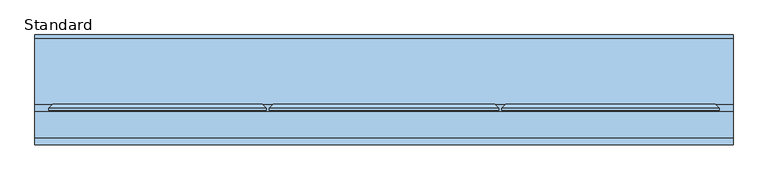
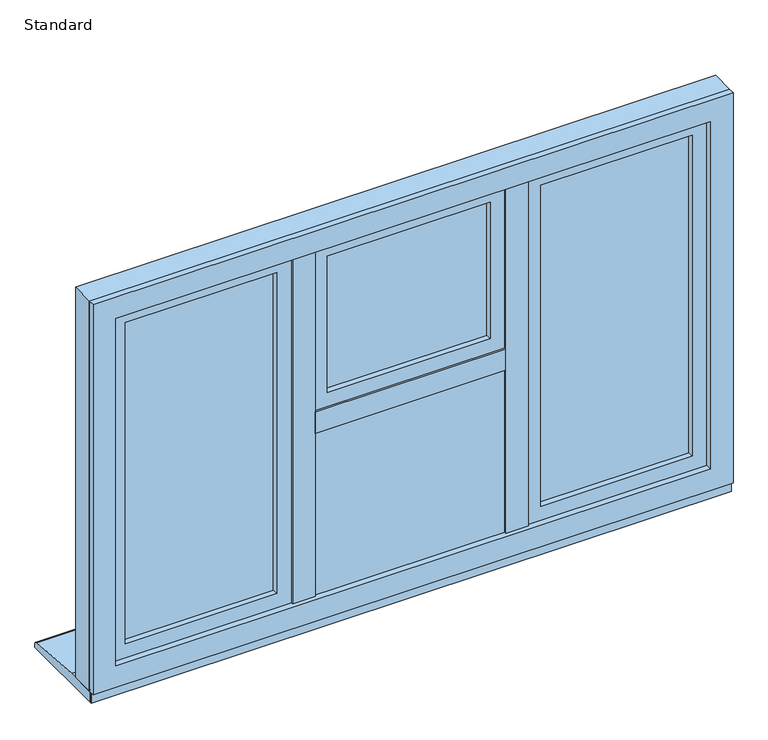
"""IFC4 building model written with IfcOpenShell, lengths in millimetres: window geometry, SMARTS_Alitherm600 : Standard."""

from ifc_helpers import new_model, si_unit, point, frame, frame_2d, origin, place, context, project, spatial, polyline, circle_curve, trimmed, segment, composite_curve, outline, extrude, faceted_brep, source, transform, mapped, element, save


def standard_d68943e1(model_context):
    return source(origin(), model_context, "Body", "SolidModel", [
        extrude(outline(polyline([(-256.0666667, 102.8298432), (-237.2666667, 102.8298432), (-237.2666667, 47.2458572), (-256.0666667, 47.2458572), (-256.0666667, 102.8298432)])), frame((0.0, 0.0, 670.8979117), z_axis=(0.0, 0.0, 1.0), x_axis=(1.0, 0.0, 0.0)), (0.0, 0.0, 1.0), 883.2041766),
        extrude(outline(polyline([(-272.568755, 47.2458572), (-220.7645784, 47.2458572), (-220.7645784, 43.2798432), (-272.568755, 43.2798432), (-272.568755, 47.2458572)])), frame((0.0, 0.0, 687.4), z_axis=(0.0, 0.0, 1.0), x_axis=(1.0, 0.0, 0.0)), (0.0, 0.0, 1.0), 850.2),
        extrude(outline(polyline([(237.2666667, 102.8298432), (256.0666667, 102.8298432), (256.0666667, 47.2458572), (237.2666667, 47.2458572), (237.2666667, 102.8298432)])), frame((0.0, 0.0, 670.8979117), z_axis=(0.0, 0.0, 1.0), x_axis=(1.0, 0.0, 0.0)), (0.0, 0.0, 1.0), 883.2041766),
        extrude(outline(polyline([(220.7645784, 47.2458572), (272.568755, 47.2458572), (272.568755, 43.2798432), (220.7645784, 43.2798432), (220.7645784, 47.2458572)])), frame((0.0, 0.0, 687.4), z_axis=(0.0, 0.0, 1.0), x_axis=(1.0, 0.0, 0.0)), (0.0, 0.0, 1.0), 850.2),
        extrude(outline(polyline([(237.168755, 102.8298432), (237.168755, 47.2458572), (-237.168755, 47.2458572), (-237.168755, 102.8298432), (237.168755, 102.8298432)])), frame((0.0, 0.0, 1103.1), z_axis=(0.0, 0.0, 1.0), x_axis=(1.0, 0.0, 0.0)), (0.0, 0.0, 1.0), 18.8),
        extrude(outline(polyline([(220.6666667, 47.2458572), (220.6666667, 43.2798432), (-220.6666667, 43.2798432), (-220.6666667, 47.2458572), (220.6666667, 47.2458572)])), frame((0.0, 0.0, 1086.5979117), z_axis=(0.0, 0.0, 1.0), x_axis=(1.0, 0.0, 0.0)), (0.0, 0.0, 1.0), 51.8041766),
        extrude(outline(polyline([(1516.6, -666.6), (708.4, -666.6), (708.4, -293.6666667), (1516.6, -293.6666667), (1516.6, -666.6)]), holes=[polyline([(1506.6, -303.6666667), (718.4, -303.6666667), (718.4, -656.6), (1506.6, -656.6), (1506.6, -303.6666667)])]), frame((0.0, 72.3211351, 0.0), z_axis=(0.0, 1.0, 0.0), x_axis=(0.0, 0.0, 1.0)), (0.0, 0.0, 1.0), 16.0),
        extrude(outline(polyline([(-666.6, 92.3211351), (-293.6666667, 92.3211351), (-293.6666667, 88.3211351), (-666.6, 88.3211351), (-666.6, 92.3211351)])), frame((0.0, 0.0, 708.4), z_axis=(0.0, 0.0, 1.0), x_axis=(1.0, 0.0, 0.0)), (0.0, 0.0, 1.0), 808.2),
        extrude(outline(polyline([(-666.6, 72.3211351), (-293.6666667, 72.3211351), (-293.6666667, 68.3211351), (-666.6, 68.3211351), (-666.6, 72.3211351)])), frame((0.0, 0.0, 708.4), z_axis=(0.0, 0.0, 1.0), x_axis=(1.0, 0.0, 0.0)), (0.0, 0.0, 1.0), 808.2),
        faceted_brep([(-293.344552, 118.8818325, 1516.9221147), (-305.5266427, 97.7818325, 1504.740024), (-654.740024, 97.7818325, 1504.740024), (-666.9221147, 118.8818325, 1516.9221147), (-288.6606173, 97.7818325, 1521.6060494), (-288.6606173, 118.8818325, 1521.6060494), (-671.6060494, 118.8818325, 1521.6060494), (-671.6060494, 97.7818325, 1521.6060494), (-654.740024, 97.7818325, 720.259976), (-666.9221147, 118.8818325, 708.0778853), (-671.6060494, 118.8818325, 703.3939506), (-671.6060494, 97.7818325, 703.3939506), (-305.5266427, 97.7818325, 720.259976), (-293.344552, 118.8818325, 708.0778853), (-288.6606173, 118.8818325, 703.3939506), (-288.6606173, 97.7818325, 703.3939506)], [[[0, 1, 2, 3]], [[4, 5, 6, 7]], [[3, 2, 8, 9]], [[7, 6, 10, 11]], [[9, 8, 12, 13]], [[11, 10, 14, 15]], [[13, 12, 1, 0]], [[5, 14, 10, 6], [3, 9, 13, 0]], [[15, 14, 5, 4]], [[7, 11, 15, 4], [1, 12, 8, 2]]]),
        extrude(outline(polyline([(681.552908, -693.447092), (681.552908, -266.8195747), (1543.447092, -266.8195747), (1543.447092, -693.447092), (681.552908, -693.447092)]), holes=[polyline([(1505.1, -655.1), (1505.1, -305.1666667), (719.9, -305.1666667), (719.9, -655.1), (1505.1, -655.1)])]), frame((0.0, 50.2798432, 0.0), z_axis=(0.0, 1.0, 0.0), x_axis=(0.0, 0.0, 1.0)), (0.0, 0.0, 1.0), 13.0853156),
        faceted_brep([(-671.6060494, 118.8818325, 1521.6060494), (-671.6060494, 63.3651588, 1521.6060494), (-671.6060494, 63.3651588, 703.3939506), (-671.6060494, 118.8818325, 703.3939506), (-288.6606173, 63.3651588, 703.3939506), (-288.6606173, 118.8818325, 703.3939506), (-288.6606173, 63.3651588, 1521.6060494), (-288.6606173, 118.8818325, 1521.6060494), (-710.3358988, 106.2818325, 1560.3358988), (-710.3358988, 110.3519831, 1560.3358988), (-710.3358988, 110.3519831, 664.6641012), (-710.3358988, 106.2818325, 664.6641012), (-249.9307679, 110.3519831, 664.6641012), (-249.9307679, 106.2818325, 664.6641012), (-249.9307679, 110.3519831, 1560.3358988), (-249.9307679, 106.2818325, 1560.3358988), (-693.7467657, 106.2818325, 1543.7467657), (-266.5199009, 106.2818325, 1543.7467657), (-266.5199009, 106.2818325, 681.2532343), (-693.7467657, 106.2818325, 681.2532343), (-701.8060494, 118.8818325, 1551.8060494), (-258.4606173, 118.8818325, 1551.8060494), (-258.4606173, 118.8818325, 673.1939506), (-701.8060494, 118.8818325, 673.1939506), (-693.7467657, 63.3651588, 1543.7467657), (-693.7467657, 63.3651588, 681.2532343), (-266.5199009, 63.3651588, 681.2532343), (-266.5199009, 63.3651588, 1543.7467657)], [[[0, 1, 2, 3]], [[3, 2, 4, 5]], [[5, 4, 6, 7]], [[7, 6, 1, 0]], [[8, 9, 10, 11]], [[11, 10, 12, 13]], [[13, 12, 14, 15]], [[11, 13, 15, 8], [16, 17, 18, 19]], [[15, 14, 9, 8]], [[20, 21, 22, 23], [3, 5, 7, 0]], [[24, 16, 19, 25]], [[25, 19, 18, 26]], [[26, 18, 17, 27]], [[25, 26, 27, 24], [1, 6, 4, 2]], [[27, 17, 16, 24]], [[9, 20, 23, 10]], [[10, 23, 22, 12]], [[12, 22, 21, 14]], [[14, 21, 20, 9]]]),
        extrude(outline(polyline([(-235.6666667, 77.7798432), (235.6666667, 77.7798432), (235.6666667, 73.7798432), (-235.6666667, 73.7798432), (-235.6666667, 77.7798432)])), frame((0.0, 0.0, 672.4), z_axis=(0.0, 0.0, 1.0), x_axis=(1.0, 0.0, 0.0)), (0.0, 0.0, 1.0), 429.1),
        extrude(outline(polyline([(-235.6666667, 57.7798432), (235.6666667, 57.7798432), (235.6666667, 53.7798432), (-235.6666667, 53.7798432), (-235.6666667, 57.7798432)])), frame((0.0, 0.0, 672.4), z_axis=(0.0, 0.0, 1.0), x_axis=(1.0, 0.0, 0.0)), (0.0, 0.0, 1.0), 429.1),
        extrude(outline(polyline([(1101.5, -235.6666667), (672.4, -235.6666667), (672.4, 235.6666667), (1101.5, 235.6666667), (1101.5, -235.6666667)]), holes=[polyline([(1091.5, 225.6666667), (682.4, 225.6666667), (682.4, -225.6666667), (1091.5, -225.6666667), (1091.5, 225.6666667)])]), frame((0.0, 57.7798432, 0.0), z_axis=(0.0, 1.0, 0.0), x_axis=(0.0, 0.0, 1.0)), (0.0, 0.0, 1.0), 16.0),
        faceted_brep([(-232.4827319, 102.7798432, 1098.3160653), (-220.3006413, 81.6798432, 1086.1339746), (-220.3006413, 81.6798432, 687.7660254), (-232.4827319, 102.7798432, 675.5839347), (220.3006413, 81.6798432, 687.7660254), (232.4827319, 102.7798432, 675.5839347), (220.3006413, 81.6798432, 1086.1339746), (232.4827319, 102.7798432, 1098.3160653), (237.1666667, 81.6798432, 1103.0), (237.1666667, 102.7798432, 1103.0), (-237.1666667, 102.7798432, 1103.0), (-237.1666667, 81.6798432, 1103.0), (-237.1666667, 102.7798432, 670.9), (-237.1666667, 81.6798432, 670.9), (237.1666667, 102.7798432, 670.9), (237.1666667, 81.6798432, 670.9)], [[[0, 1, 2, 3]], [[3, 2, 4, 5]], [[5, 4, 6, 7]], [[7, 6, 1, 0]], [[8, 9, 10, 11]], [[11, 10, 12, 13]], [[13, 12, 14, 15]], [[9, 14, 12, 10], [0, 3, 5, 7]], [[15, 14, 9, 8]], [[11, 13, 15, 8], [6, 4, 2, 1]]]),
        extrude(outline(polyline([(1516.6, -199.6666667), (1159.5, -199.6666667), (1159.5, 199.6666667), (1516.6, 199.6666667), (1516.6, -199.6666667)]), holes=[polyline([(1506.6, 189.6666667), (1169.5, 189.6666667), (1169.5, -189.6666667), (1506.6, -189.6666667), (1506.6, 189.6666667)])]), frame((0.0, 72.3211351, 0.0), z_axis=(0.0, 1.0, 0.0), x_axis=(0.0, 0.0, 1.0)), (0.0, 0.0, 1.0), 16.0),
        extrude(outline(polyline([(-199.6666667, 92.3211351), (199.6666667, 92.3211351), (199.6666667, 88.3211351), (-199.6666667, 88.3211351), (-199.6666667, 92.3211351)])), frame((0.0, 0.0, 1159.5), z_axis=(0.0, 0.0, 1.0), x_axis=(1.0, 0.0, 0.0)), (0.0, 0.0, 1.0), 357.1),
        extrude(outline(polyline([(-199.6666667, 72.3211351), (199.6666667, 72.3211351), (199.6666667, 68.3211351), (-199.6666667, 68.3211351), (-199.6666667, 72.3211351)])), frame((0.0, 0.0, 1159.5), z_axis=(0.0, 0.0, 1.0), x_axis=(1.0, 0.0, 0.0)), (0.0, 0.0, 1.0), 357.1),
        faceted_brep([(199.9887813, 118.8818325, 1516.9221147), (187.8066907, 97.7818325, 1504.740024), (-187.8066907, 97.7818325, 1504.740024), (-199.9887813, 118.8818325, 1516.9221147), (204.6727161, 97.7818325, 1521.6060494), (204.6727161, 118.8818325, 1521.6060494), (-204.6727161, 118.8818325, 1521.6060494), (-204.6727161, 97.7818325, 1521.6060494), (-187.8066907, 97.7818325, 1171.359976), (-199.9887813, 118.8818325, 1159.1778853), (-204.6727161, 118.8818325, 1154.4939506), (-204.6727161, 97.7818325, 1154.4939506), (187.8066907, 97.7818325, 1171.359976), (199.9887813, 118.8818325, 1159.1778853), (204.6727161, 118.8818325, 1154.4939506), (204.6727161, 97.7818325, 1154.4939506)], [[[0, 1, 2, 3]], [[4, 5, 6, 7]], [[3, 2, 8, 9]], [[7, 6, 10, 11]], [[9, 8, 12, 13]], [[11, 10, 14, 15]], [[13, 12, 1, 0]], [[5, 14, 10, 6], [3, 9, 13, 0]], [[15, 14, 5, 4]], [[7, 11, 15, 4], [1, 12, 8, 2]]]),
        extrude(outline(polyline([(1132.652908, -226.5137586), (1132.652908, 226.5137586), (1543.447092, 226.5137586), (1543.447092, -226.5137586), (1132.652908, -226.5137586)]), holes=[polyline([(1505.1, -188.1666667), (1505.1, 188.1666667), (1171.0, 188.1666667), (1171.0, -188.1666667), (1505.1, -188.1666667)])]), frame((0.0, 50.2798432, 0.0), z_axis=(0.0, 1.0, 0.0), x_axis=(0.0, 0.0, 1.0)), (0.0, 0.0, 1.0), 13.0853156),
        faceted_brep([(-204.6727161, 118.8818325, 1521.6060494), (-204.6727161, 63.3651588, 1521.6060494), (-204.6727161, 63.3651588, 1154.4939506), (-204.6727161, 118.8818325, 1154.4939506), (204.6727161, 63.3651588, 1154.4939506), (204.6727161, 118.8818325, 1154.4939506), (204.6727161, 63.3651588, 1521.6060494), (204.6727161, 118.8818325, 1521.6060494), (-243.4025655, 106.2818325, 1560.3358988), (-243.4025655, 110.3519831, 1560.3358988), (-243.4025655, 110.3519831, 1115.7641012), (-243.4025655, 106.2818325, 1115.7641012), (243.4025655, 110.3519831, 1115.7641012), (243.4025655, 106.2818325, 1115.7641012), (243.4025655, 110.3519831, 1560.3358988), (243.4025655, 106.2818325, 1560.3358988), (-226.8134324, 106.2818325, 1543.7467657), (226.8134324, 106.2818325, 1543.7467657), (226.8134324, 106.2818325, 1132.3532343), (-226.8134324, 106.2818325, 1132.3532343), (-234.8727161, 118.8818325, 1551.8060494), (234.8727161, 118.8818325, 1551.8060494), (234.8727161, 118.8818325, 1124.2939506), (-234.8727161, 118.8818325, 1124.2939506), (-226.8134324, 63.3651588, 1543.7467657), (-226.8134324, 63.3651588, 1132.3532343), (226.8134324, 63.3651588, 1132.3532343), (226.8134324, 63.3651588, 1543.7467657)], [[[0, 1, 2, 3]], [[3, 2, 4, 5]], [[5, 4, 6, 7]], [[7, 6, 1, 0]], [[8, 9, 10, 11]], [[11, 10, 12, 13]], [[13, 12, 14, 15]], [[11, 13, 15, 8], [16, 17, 18, 19]], [[15, 14, 9, 8]], [[20, 21, 22, 23], [3, 5, 7, 0]], [[24, 16, 19, 25]], [[25, 19, 18, 26]], [[26, 18, 17, 27]], [[25, 26, 27, 24], [1, 6, 4, 2]], [[27, 17, 16, 24]], [[9, 20, 23, 10]], [[10, 23, 22, 12]], [[12, 22, 21, 14]], [[14, 21, 20, 9]]]),
        extrude(outline(polyline([(1590.0, 740.0), (1590.0, -740.0), (635.0, -740.0), (635.0, 740.0), (1590.0, 740.0)]), holes=[polyline([(670.85, 704.15), (670.85, -704.15), (1554.15, -704.15), (1554.15, 704.15), (670.85, 704.15)])]), frame((0.0, 47.2798427, 0.0), z_axis=(0.0, 1.0, 0.0), x_axis=(0.0, 0.0, 1.0)), (0.0, 0.0, 1.0), 55.5500006),
        extrude(outline(polyline([(1590.0, 740.0), (1590.0, -740.0), (635.0, -740.0), (635.0, 740.0), (1590.0, 740.0)]), holes=[polyline([(687.35, 687.65), (687.35, -687.65), (1537.65, -687.65), (1537.65, 687.65), (687.35, 687.65)])]), frame((0.0, 32.8298432, 0.0), z_axis=(0.0, 1.0, 0.0), x_axis=(0.0, 0.0, 1.0)), (0.0, 0.0, 1.0), 14.4499994),
        extrude(outline(polyline([(1516.6, 293.6666667), (708.4, 293.6666667), (708.4, 666.6), (1516.6, 666.6), (1516.6, 293.6666667)]), holes=[polyline([(1506.6, 656.6), (718.4, 656.6), (718.4, 303.6666667), (1506.6, 303.6666667), (1506.6, 656.6)])]), frame((0.0, 72.3211351, 0.0), z_axis=(0.0, 1.0, 0.0), x_axis=(0.0, 0.0, 1.0)), (0.0, 0.0, 1.0), 16.0),
        extrude(outline(polyline([(293.6666667, 92.3211351), (666.6, 92.3211351), (666.6, 88.3211351), (293.6666667, 88.3211351), (293.6666667, 92.3211351)])), frame((0.0, 0.0, 708.4), z_axis=(0.0, 0.0, 1.0), x_axis=(1.0, 0.0, 0.0)), (0.0, 0.0, 1.0), 808.2),
        extrude(outline(polyline([(293.6666667, 72.3211351), (666.6, 72.3211351), (666.6, 68.3211351), (293.6666667, 68.3211351), (293.6666667, 72.3211351)])), frame((0.0, 0.0, 708.4), z_axis=(0.0, 0.0, 1.0), x_axis=(1.0, 0.0, 0.0)), (0.0, 0.0, 1.0), 808.2),
        faceted_brep([(666.9221147, 118.8818325, 1516.9221147), (654.740024, 97.7818325, 1504.740024), (305.5266427, 97.7818325, 1504.740024), (293.344552, 118.8818325, 1516.9221147), (671.6060494, 97.7818325, 1521.6060494), (671.6060494, 118.8818325, 1521.6060494), (288.6606173, 118.8818325, 1521.6060494), (288.6606173, 97.7818325, 1521.6060494), (305.5266427, 97.7818325, 720.259976), (293.344552, 118.8818325, 708.0778853), (288.6606173, 118.8818325, 703.3939506), (288.6606173, 97.7818325, 703.3939506), (654.740024, 97.7818325, 720.259976), (666.9221147, 118.8818325, 708.0778853), (671.6060494, 118.8818325, 703.3939506), (671.6060494, 97.7818325, 703.3939506)], [[[0, 1, 2, 3]], [[4, 5, 6, 7]], [[3, 2, 8, 9]], [[7, 6, 10, 11]], [[9, 8, 12, 13]], [[11, 10, 14, 15]], [[13, 12, 1, 0]], [[5, 14, 10, 6], [3, 9, 13, 0]], [[15, 14, 5, 4]], [[7, 11, 15, 4], [1, 12, 8, 2]]]),
        extrude(outline(polyline([(681.552908, 266.8195747), (681.552908, 693.447092), (1543.447092, 693.447092), (1543.447092, 266.8195747), (681.552908, 266.8195747)]), holes=[polyline([(1505.1, 305.1666667), (1505.1, 655.1), (719.9, 655.1), (719.9, 305.1666667), (1505.1, 305.1666667)])]), frame((0.0, 50.2798432, 0.0), z_axis=(0.0, 1.0, 0.0), x_axis=(0.0, 0.0, 1.0)), (0.0, 0.0, 1.0), 13.0853156),
        faceted_brep([(288.6606173, 118.8818325, 1521.6060494), (288.6606173, 63.3651588, 1521.6060494), (288.6606173, 63.3651588, 703.3939506), (288.6606173, 118.8818325, 703.3939506), (671.6060494, 63.3651588, 703.3939506), (671.6060494, 118.8818325, 703.3939506), (671.6060494, 63.3651588, 1521.6060494), (671.6060494, 118.8818325, 1521.6060494), (249.9307679, 106.2818325, 1560.3358988), (249.9307679, 110.3519831, 1560.3358988), (249.9307679, 110.3519831, 664.6641012), (249.9307679, 106.2818325, 664.6641012), (710.3358988, 110.3519831, 664.6641012), (710.3358988, 106.2818325, 664.6641012), (710.3358988, 110.3519831, 1560.3358988), (710.3358988, 106.2818325, 1560.3358988), (266.5199009, 106.2818325, 1543.7467657), (693.7467657, 106.2818325, 1543.7467657), (693.7467657, 106.2818325, 681.2532343), (266.5199009, 106.2818325, 681.2532343), (258.4606173, 118.8818325, 1551.8060494), (701.8060494, 118.8818325, 1551.8060494), (701.8060494, 118.8818325, 673.1939506), (258.4606173, 118.8818325, 673.1939506), (266.5199009, 63.3651588, 1543.7467657), (266.5199009, 63.3651588, 681.2532343), (693.7467657, 63.3651588, 681.2532343), (693.7467657, 63.3651588, 1543.7467657)], [[[0, 1, 2, 3]], [[3, 2, 4, 5]], [[5, 4, 6, 7]], [[7, 6, 1, 0]], [[8, 9, 10, 11]], [[11, 10, 12, 13]], [[13, 12, 14, 15]], [[11, 13, 15, 8], [16, 17, 18, 19]], [[15, 14, 9, 8]], [[20, 21, 22, 23], [3, 5, 7, 0]], [[24, 16, 19, 25]], [[25, 19, 18, 26]], [[26, 18, 17, 27]], [[25, 26, 27, 24], [1, 6, 4, 2]], [[27, 17, 16, 24]], [[9, 20, 23, 10]], [[10, 23, 22, 12]], [[12, 22, 21, 14]], [[14, 21, 20, 9]]]),
        extrude(outline(polyline([(740.0, 43.2798432), (740.0, 40.7798432), (-740.0, 40.7798432), (-740.0, 43.2798432), (740.0, 43.2798432)])), frame((0.0, 0.0, 610.0), z_axis=(0.0, 0.0, 1.0), x_axis=(1.0, 0.0, 0.0)), (0.0, 0.0, 1.0), 31.0),
        extrude(outline(composite_curve([segment(polyline([(265.7798432, 610.0), (43.2798432, 610.0), (43.2798432, 635.0), (118.7798432, 635.0), (258.4770891, 625.9276664)]), True, "CONTINUOUS"), segment(trimmed(circle_curve(frame_2d((257.7798432, 617.9581088)), 8.0), [point((258.4770891, 625.9276664))], [point((265.7798432, 617.9581088))], False, "CARTESIAN"), True, "CONTINUOUS"), segment(polyline([(265.7798432, 617.9581088), (265.7798432, 610.0)]), True, "CONTINUOUS")], self_intersect=False)), frame((-740.0, 0.0, 0.0), z_axis=(1.0, 0.0, 0.0), x_axis=(0.0, 1.0, 0.0)), (0.0, 0.0, 1.0), 1480.0),
    ])


if __name__ == "__main__":
    model = new_model("IFC4")
    model_context = context("Model", 3, world=origin())
    ifc_project = project(units=[si_unit("LENGTHUNIT", "METRE", prefix="MILLI")], contexts=[model_context])
    site = spatial("IfcSite", under=ifc_project)
    building = spatial("IfcBuilding", under=site)
    placement = place(None, origin())
    standard_shape = standard_d68943e1(model_context)
    element("IfcWindow", 1, ObjectType="SMARTS_Alitherm600 : Standard", at=placement, inside=building, context=model_context, shape_type="MappedRepresentation", body=[
        mapped(standard_shape, transform((0.0, 0.0, 0.0), x_axis=(1.0, 0.0, 0.0), y_axis=(0.0, 1.0, 0.0), z_axis=(0.0, 0.0, 1.0))),
    ])
    save(model, "model.ifc")
